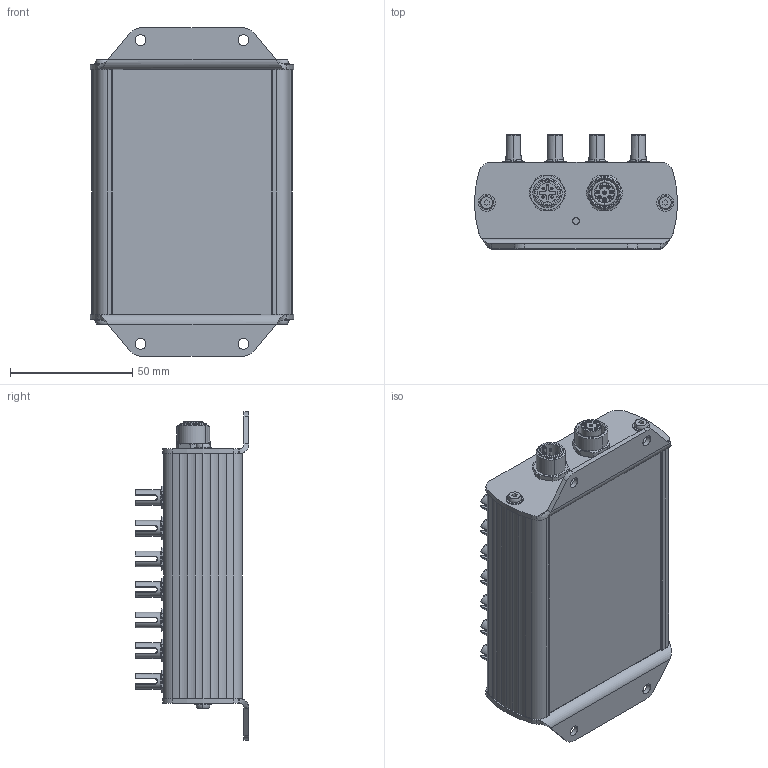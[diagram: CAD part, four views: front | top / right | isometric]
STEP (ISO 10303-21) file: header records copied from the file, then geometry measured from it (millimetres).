
FILE_DESCRIPTION((''),'2;1');
FILE_NAME('COLORCONTROL-MFA-7','2021-08-09T09:03:14',('11000775'),(''),'CREO PARAMETRIC BY PTC INC, 2020044','CREO PARAMETRIC BY PTC INC, 2020044','');
FILE_SCHEMA(('AUTOMOTIVE_DESIGN { 1 0 10303 214 1 1 1 1 }'));
Products named in the file (1): COLORCONTROL-MFA-7
Bounding box: 83 x 46.45 x 134.08 mm (x, y, z)
Volume: 265243.2 mm3; surface area: 46236.7 mm2
Topology: 1 solids, 1 shells, 5177 faces, 11260 edges, 6129 vertices
Faces by surface type: cylinder 2067, sphere 1018, plane 869, bspline 684, torus 397, cone 142
Entity records: 266599 total; most frequent: CARTESIAN_POINT 85503, DIRECTION 24168, ORIENTED_EDGE 22484, PRESENTATION_STYLE_ASSIGNMENT 16360, STYLED_ITEM 11243, CURVE_STYLE 11242, EDGE_CURVE 11242, AXIS2_PLACEMENT_3D 9983
